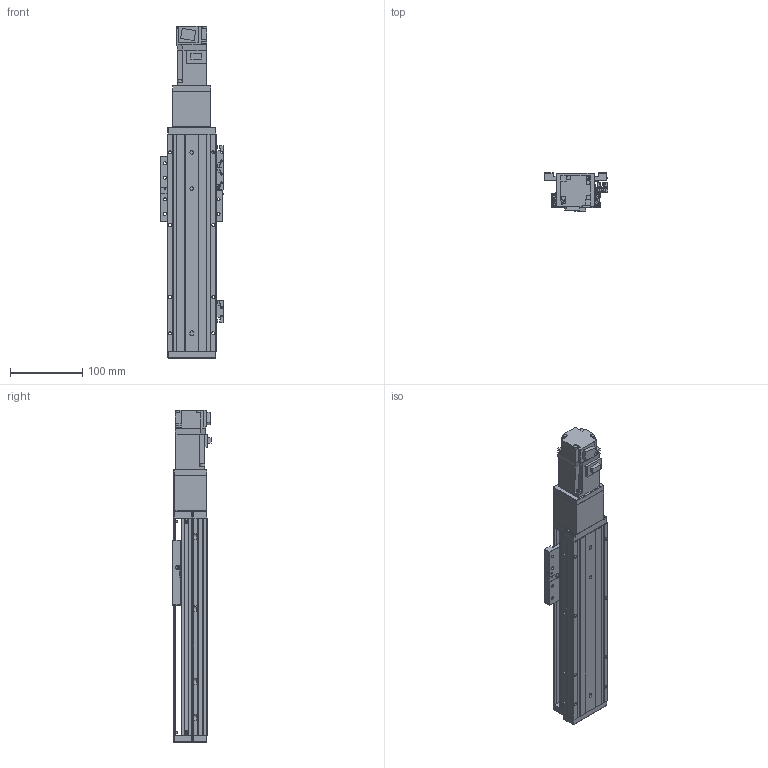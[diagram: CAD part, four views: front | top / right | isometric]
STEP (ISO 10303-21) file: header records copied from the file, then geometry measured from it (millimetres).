
FILE_DESCRIPTION (( 'STEP AP203' ), '1' );
FILE_NAME ('KTHAL60-150-BC-M10-C4L.step', '2022-03-19T08:34:17', ( '微软用户' ), ( '微软中国' ), 'SwSTEP 2.0', 'SolidWorks 2020', '' );
FILE_SCHEMA (( 'CONFIG_CONTROL_DESIGN' ));
Length unit declared in the file: millimetre
Products named in the file (18): CTHA60-017; CTHA60-027; KTHLA60-002; CTHA60-021; CTHA60-013; KTHA60-004; GBT 70.1-M4×16; HG-KR13（三菱）; KTHA60-005; GBT77-2000M3-3; KTHAL60-150-BC-M10-C4L; GB¨uT 70.2-M3¡Á5_M3¡Á6; GBT 70.1-M3℅6; GBT 70.3-M3℅6; CTHA60-016; EE_SX911P_R; CTHA60-006-2_CTHA60-006-2; KTHA60-001_300
Assembly tree (50 placements, depth 2):
  KTHAL60-150-BC-M10-C4L
    KTHA60-001_300
    KTHLA60-002
    KTHA60-004
    KTHA60-005
    GB¨uT 70.2-M3¡Á5_M3¡Á6  x5
    GBT 70.3-M3℅6  x6
    EE_SX911P_R  x3
    CTHA60-017  x3
    CTHA60-021  x2
    GBT 70.1-M4×16  x10
    GBT77-2000M3-3  x6
    GBT 70.1-M3℅6  x6
    CTHA60-016
    CTHA60-006-2_CTHA60-006-2
    CTHA60-027
    CTHA60-013
    HG-KR13（三菱）
Bounding box: 87.82 x 53.3 x 458.6 mm (x, y, z)
Volume: 868933.6 mm3; surface area: 233046.8 mm2
Topology: 53 solids, 53 shells, 2140 faces, 5050 edges, 3093 vertices
Faces by surface type: plane 1246, cylinder 507, cone 287, torus 86, sphere 14
Entity records: 34774 total; most frequent: CARTESIAN_POINT 5690, DIRECTION 5580, ORIENTED_EDGE 5304, EDGE_CURVE 2652, VECTOR 1886, LINE 1886, AXIS2_PLACEMENT_3D 1847, VERTEX_POINT 1661
